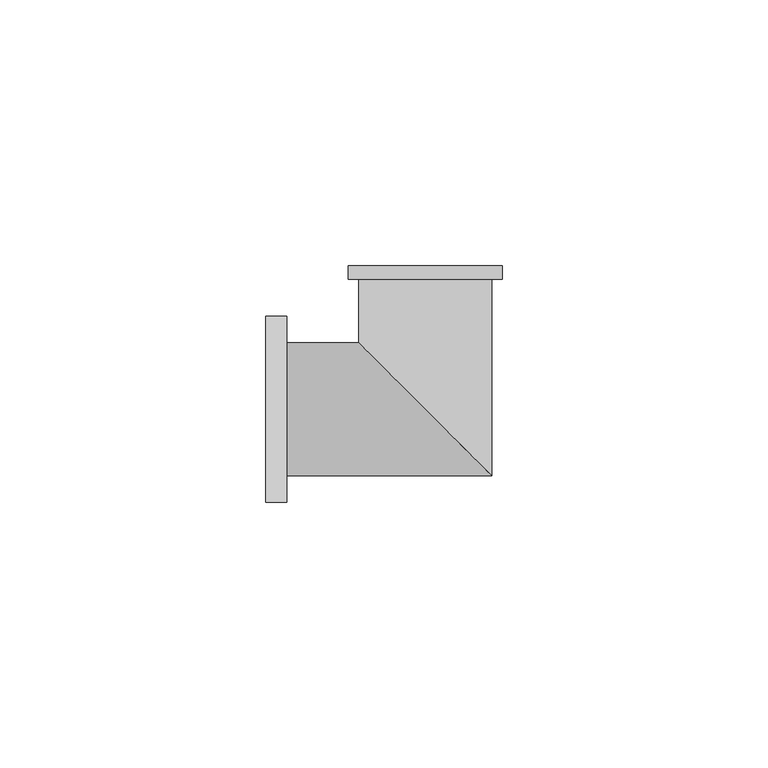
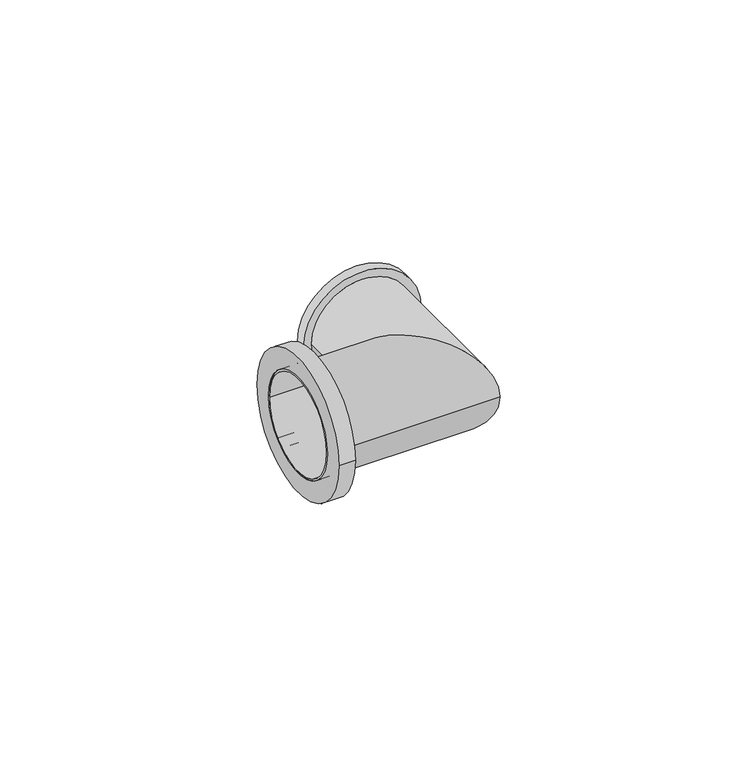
"""IFC4 building model written with IfcOpenShell, lengths in millimetres: pipe fitting geometry, БИР ПЕКС_НПР_Угольник_Резьба_Наружная : Угольник с наружной резьбой."""

import ifcopenshell
import ifcopenshell.guid

model = None  # the IFC model being written
_history = None  # IfcOwnerHistory: only IFC2X3 demands one
_inside = {}  # id of a spatial element -> (the spatial element, [elements in it])
_under = {}  # id of a project, library or spatial element -> (it, [spatial elements below it])
_declared = {}  # id of a project -> (the project, [libraries it declares])
_typed = {}  # id of a type object -> (the type object, [elements of that type])
_made_of = {}  # id of a material, layer set ... -> (it, [elements and type objects made of it])


def new_model(schema):
    """Start an empty IFC model of exactly this schema.

    Asked for "IFC4X3", IfcOpenShell would pick the latest addendum, in which some entities
    have other attributes; the version numbers below select the first issue.
    IFC2X3 requires an IfcOwnerHistory on every rooted entity: one is made here for all.
    """
    global model, _history
    if schema == "IFC4X3":
        model = ifcopenshell.file(schema_version=(4, 3, 0, 0))
    else:
        model = ifcopenshell.file(schema=schema)
    _inside.clear()
    _under.clear()
    _declared.clear()
    _typed.clear()
    _made_of.clear()
    _history = None
    if model.schema == "IFC2X3":
        org = make("IfcOrganization", Name="unknown")
        user = make(
            "IfcPersonAndOrganization",
            ThePerson=make("IfcPerson", FamilyName="unknown"),
            TheOrganization=org,
        )
        app = make(
            "IfcApplication",
            ApplicationDeveloper=org,
            Version="unknown",
            ApplicationFullName="unknown",
            ApplicationIdentifier="unknown",
        )
        _history = make(
            "IfcOwnerHistory",
            OwningUser=user,
            OwningApplication=app,
            ChangeAction="ADDED",
            CreationDate=0,
        )
    return model


def make(cls, **values):
    """One entity of the class cls with the attributes given. An attribute that is None is left unset."""
    return model.create_entity(
        cls, **{name: value for name, value in values.items() if value is not None}
    )


def rooted(cls, **values):
    """An entity with a GlobalId (a new one), such as an element, a storey or a relation."""
    return make(cls, GlobalId=ifcopenshell.guid.new(), OwnerHistory=_history, **values)


def si_unit(unit_type, name, prefix=None):
    """IfcSIUnit, for example si_unit("LENGTHUNIT", "METRE", prefix="MILLI")."""
    return make("IfcSIUnit", UnitType=unit_type, Prefix=prefix, Name=name)


def assignment(units):
    """IfcUnitAssignment: the units of a project."""
    return None if units is None else make("IfcUnitAssignment", Units=units)


def point(xyz):
    """IfcCartesianPoint."""
    return None if xyz is None else make("IfcCartesianPoint", Coordinates=xyz)


def direction(xyz):
    """IfcDirection."""
    return None if xyz is None else make("IfcDirection", DirectionRatios=xyz)


def frame(location, z_axis=None, x_axis=None):
    """IfcAxis2Placement3D, a coordinate frame: its origin and axes. An axis left out is left unset."""
    return make(
        "IfcAxis2Placement3D",
        Location=point(location),
        Axis=direction(z_axis),
        RefDirection=direction(x_axis),
    )


def frame_2d(location, x_axis=None):
    """IfcAxis2Placement2D, a coordinate frame in the plane: its origin and x axis."""
    return make(
        "IfcAxis2Placement2D", Location=point(location), RefDirection=direction(x_axis)
    )


def origin():
    """The frame at (0, 0, 0) with its axes left unset."""
    return frame((0.0, 0.0, 0.0))


def origin_2d():
    """The frame at (0, 0) in the plane with its x axis left unset."""
    return frame_2d((0.0, 0.0))


def place(relative_to, where):
    """IfcLocalPlacement: puts the frame where relative to a parent placement (None: the world)."""
    return make(
        "IfcLocalPlacement", PlacementRelTo=relative_to, RelativePlacement=where
    )


def context(
    kind, dimensions, precision=None, world=None, true_north=None, identifier=None
):
    """IfcGeometricRepresentationContext, for example the 3D "Model" context."""
    return make(
        "IfcGeometricRepresentationContext",
        ContextIdentifier=identifier,
        ContextType=kind,
        CoordinateSpaceDimension=dimensions,
        Precision=precision,
        WorldCoordinateSystem=world,
        TrueNorth=true_north,
    )


def project(units=None, contexts=None):
    """IfcProject with its units and contexts."""
    return rooted(
        "IfcProject",
        Name="project",
        RepresentationContexts=contexts,
        UnitsInContext=assignment(units),
    )


def spatial(cls, under=None, at=None, **own):
    """A site, building, storey or space (cls), placed at a placement, below another one or the project."""
    s = rooted(cls, ObjectPlacement=at, **own)
    if under is not None:
        _under.setdefault(under.id(), (under, []))[1].append(s)
    return s


def polyline(points):
    """IfcPolyline through the points."""
    return make("IfcPolyline", Points=[point(p) for p in points])


def circle_curve(where, radius):
    """IfcCircle in the frame where."""
    return make("IfcCircle", Position=where, Radius=radius)


def ellipse_curve(where, semi_axis1, semi_axis2):
    """IfcEllipse in the frame where."""
    return make(
        "IfcEllipse", Position=where, SemiAxis1=semi_axis1, SemiAxis2=semi_axis2
    )


def trimmed(basis, trim1, trim2, sense, master):
    """IfcTrimmedCurve: the piece of a basis curve between two trims."""
    return make(
        "IfcTrimmedCurve",
        BasisCurve=basis,
        Trim1=trim1,
        Trim2=trim2,
        SenseAgreement=sense,
        MasterRepresentation=master,
    )


def segment(curve, same_sense, transition):
    """IfcCompositeCurveSegment."""
    return make(
        "IfcCompositeCurveSegment",
        Transition=transition,
        SameSense=same_sense,
        ParentCurve=curve,
    )


def composite_curve(segments, self_intersect=None):
    """IfcCompositeCurve: segments joined end to end."""
    return make("IfcCompositeCurve", Segments=segments, SelfIntersect=self_intersect)


def outline(outer, holes=None, kind="AREA"):
    """IfcArbitraryClosedProfileDef: a profile drawn as a closed curve; with holes, ...WithVoids."""
    if holes is None:
        return make("IfcArbitraryClosedProfileDef", ProfileType=kind, OuterCurve=outer)
    return make(
        "IfcArbitraryProfileDefWithVoids",
        ProfileType=kind,
        OuterCurve=outer,
        InnerCurves=holes,
    )


def extrude(swept, where, along, depth):
    """IfcExtrudedAreaSolid: the profile swept, set in the frame where, extruded along a direction by depth."""
    return make(
        "IfcExtrudedAreaSolid",
        SweptArea=swept,
        Position=where,
        ExtrudedDirection=direction(along),
        Depth=depth,
    )


def shape(context_of_items, identifier, shape_type, items):
    """IfcShapeRepresentation: the items that make up one representation, for example the "Body"."""
    return make(
        "IfcShapeRepresentation",
        ContextOfItems=context_of_items,
        RepresentationIdentifier=identifier,
        RepresentationType=shape_type,
        Items=items,
    )


def source(mapping_origin, context_of_items, identifier, shape_type, items):
    """IfcRepresentationMap: a shape defined once, which mapped items show again and again."""
    return make(
        "IfcRepresentationMap",
        MappingOrigin=mapping_origin,
        MappedRepresentation=shape(context_of_items, identifier, shape_type, items),
    )


def transform(
    local_origin,
    x_axis=None,
    y_axis=None,
    z_axis=None,
    scale=None,
    scale2=None,
    scale3=None,
    uniform=True,
):
    """IfcCartesianTransformationOperator3D, or its non-uniform kind. x_axis, y_axis, z_axis: its Axis1, 2, 3."""
    if uniform:
        return make(
            "IfcCartesianTransformationOperator3D",
            Axis1=direction(x_axis),
            Axis2=direction(y_axis),
            LocalOrigin=point(local_origin),
            Scale=scale,
            Axis3=direction(z_axis),
        )
    return make(
        "IfcCartesianTransformationOperator3DnonUniform",
        Axis1=direction(x_axis),
        Axis2=direction(y_axis),
        LocalOrigin=point(local_origin),
        Scale=scale,
        Axis3=direction(z_axis),
        Scale2=scale2,
        Scale3=scale3,
    )


def mapped(mapping_source, mapping_target):
    """IfcMappedItem: shows the shape of a source again, moved by a transform."""
    return make(
        "IfcMappedItem", MappingSource=mapping_source, MappingTarget=mapping_target
    )


def made_of(thing, what):
    """Note that an element or type object is made of a material, layer set ...; save() writes the relation."""
    if what is not None:
        _made_of.setdefault(what.id(), (what, []))[1].append(thing)
    return thing


def element(
    cls,
    number,
    at=None,
    inside=None,
    cuts=None,
    type_object=None,
    material=None,
    context=None,
    identifier="Body",
    shape_type=None,
    held_by="IfcProductDefinitionShape",
    body=None,
    shapes=None,
    **own,
):
    """One element of the class cls, such as IfcWall. Its Tag is "e" and its number.

    at: its placement. inside: the storey or other place that contains it. cuts: it is an
    opening in that element (IfcRelVoidsElement). A single representation is given by context,
    identifier, shape_type and body (its items); several are given by shapes. held_by: the class
    of the entity that holds the representations. save() writes the other relations.
    """
    e = rooted(cls, Tag="e%d" % number, ObjectPlacement=at, **own)
    if body is not None:
        shapes = [shape(context, identifier, shape_type, body)]
    if shapes is not None:
        e.Representation = make(held_by, Representations=shapes)
    if inside is not None:
        _inside.setdefault(inside.id(), (inside, []))[1].append(e)
    if cuts is not None:
        rooted(
            "IfcRelVoidsElement", RelatingBuildingElement=cuts, RelatedOpeningElement=e
        )
    if type_object is not None:
        _typed.setdefault(type_object.id(), (type_object, []))[1].append(e)
    return made_of(e, material)


def aggregate(whole, parts):
    """IfcRelAggregates: a whole, such as a stair, and the parts it consists of."""
    return rooted("IfcRelAggregates", RelatingObject=whole, RelatedObjects=parts)


def save(model, path):
    """Write the relations noted so far, then the file.

    IfcRelAggregates (storeys below a building ...), IfcRelContainedInSpatialStructure (elements
    in a storey), IfcRelDefinesByType, IfcRelAssociatesMaterial and IfcRelDeclares: one each for
    every whole, place, type object, material and project.
    """
    for whole, parts in _under.values():
        aggregate(whole, parts)
    for where, things in _inside.values():
        rooted(
            "IfcRelContainedInSpatialStructure",
            RelatedElements=things,
            RelatingStructure=where,
        )
    for kind, things in _typed.values():
        rooted("IfcRelDefinesByType", RelatedObjects=things, RelatingType=kind)
    for what, things in _made_of.values():
        rooted("IfcRelAssociatesMaterial", RelatedObjects=things, RelatingMaterial=what)
    for by, libraries in _declared.values():
        rooted("IfcRelDeclares", RelatingContext=by, RelatedDefinitions=libraries)
    model.write(path)


def plane_surface(at):
    """IfcPlane: the flat surface through the origin of the frame at, square to its z axis."""
    return make("IfcPlane", Position=at)


def cylinder_surface(at, radius):
    """IfcCylindricalSurface: all points at the distance radius from the z axis of the frame at."""
    return make("IfcCylindricalSurface", Position=at, Radius=radius)


def revolved_surface(curve, axis_point, axis_direction):
    """IfcSurfaceOfRevolution: the curve turned about the line through axis_point along axis_direction."""
    return make(
        "IfcSurfaceOfRevolution",
        SweptCurve=make("IfcArbitraryOpenProfileDef", ProfileType="CURVE", Curve=curve),
        AxisPosition=make("IfcAxis1Placement", Location=point(axis_point), Axis=direction(axis_direction)),
    )


def advanced_brep(points, edges, surfaces, faces):
    """IfcAdvancedBrep: a solid bounded by faces that lie on surfaces and meet in shared edges.

    An edge is (start, end): straight between two places in points (the first is 0);
    or (start, end, curve); or (start, end, curve, False) where it runs against its curve.
    A face is (place in surfaces, loops), or (place, loops, False) where it looks against
    its surface's normal. A loop lists edges by number (the first is 1), with a minus sign
    where the edge is run from its end to its start. The first loop is the outer one.
    """
    corners = [point(p) for p in points]
    vertices = [make("IfcVertexPoint", VertexGeometry=c) for c in corners]
    made = []
    for start, end, *more in edges:
        made.append(
            make(
                "IfcEdgeCurve",
                EdgeStart=vertices[start],
                EdgeEnd=vertices[end],
                EdgeGeometry=more[0] if more else make("IfcPolyline", Points=[corners[start], corners[end]]),
                SameSense=more[1] if len(more) > 1 else True,
            )
        )
    hull = []
    for where, loops, *sense in faces:
        bounds = []
        for j, loop in enumerate(loops):
            ring = [make("IfcOrientedEdge", EdgeElement=made[abs(k) - 1], Orientation=k > 0) for k in loop]
            bounds.append(
                make(
                    "IfcFaceOuterBound" if j == 0 else "IfcFaceBound",
                    Bound=make("IfcEdgeLoop", EdgeList=ring),
                    Orientation=True,
                )
            )
        hull.append(make("IfcAdvancedFace", Bounds=bounds, FaceSurface=surfaces[where], SameSense=sense[0] if sense else True))
    return make("IfcAdvancedBrep", Outer=make("IfcClosedShell", CfsFaces=hull))


def pipe_fitting_a28e8263(model_context):
    return source(origin(), model_context, "Body", "SolidModel", [
        extrude(outline(composite_curve([segment(trimmed(circle_curve(origin_2d(), 17.5), [point((-17.5, 0.0))], [point((17.5, 0.0))], False, "CARTESIAN"), True, "CONTINUOUS"), segment(trimmed(circle_curve(origin_2d(), 17.5), [point((17.5, 0.0))], [point((-17.5, 0.0))], False, "CARTESIAN"), True, "CONTINUOUS")], self_intersect=False), holes=[composite_curve([segment(trimmed(circle_curve(origin_2d(), 12.5), [point((-12.5, 0.0))], [point((12.5, 0.0))], True, "CARTESIAN"), True, "CONTINUOUS"), segment(trimmed(circle_curve(origin_2d(), 12.5), [point((12.5, 0.0))], [point((-12.5, 0.0))], True, "CARTESIAN"), True, "CONTINUOUS")], self_intersect=False)]), frame((-30.0, 0.0, 0.0), z_axis=(1.0, 0.0, 0.0), x_axis=(0.0, 1.0, 0.0)), (0.0, 0.0, 1.0), 4.0),
        advanced_brep(
        [(-30.0, -12.5, 0.0), (-30.0, 12.5, 0.0), (-30.0, -12.0, 0.0), (-30.0, 12.0, 0.0), (12.5, -12.5, 0.0), (-12.5, 12.5, 0.0), (-14.5, 27.0, 0.0), (14.5, 27.0, 0.0), (12.0, 27.0, 0.0), (-12.0, 27.0, 0.0), (12.5, 24.5, 0.0), (-12.5, 24.5, 0.0), (-14.5, 24.5, 0.0), (14.5, 24.5, 0.0), (12.0, -12.0, 0.0), (-12.0, 12.0, 0.0)],
        [
            (0, 1, circle_curve(frame((-30.0, 0.0, 0.0), z_axis=(-1.0, 0.0, 0.0), x_axis=(0.0, 1.0, 0.0)), 12.5)),
            (1, 0, circle_curve(frame((-30.0, 0.0, 0.0), z_axis=(-1.0, 0.0, 0.0), x_axis=(0.0, 1.0, 0.0)), 12.5)),
            (2, 3, circle_curve(frame((-30.0, 0.0, 0.0), z_axis=(1.0, 0.0, 0.0), x_axis=(0.0, 1.0, 0.0)), 12.0)),
            (3, 2, circle_curve(frame((-30.0, 0.0, 0.0), z_axis=(1.0, 0.0, 0.0), x_axis=(0.0, 1.0, 0.0)), 12.0)),
            (0, 4),
            (4, 5, ellipse_curve(frame((0.0, 0.0, 0.0), z_axis=(-0.7071067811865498, -0.7071067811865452, 0.0), x_axis=(-0.7071067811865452, 0.7071067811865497, 0.0)), 17.6776695, 12.5)),
            (5, 1),
            (5, 4, ellipse_curve(frame((0.0, 0.0, 0.0), z_axis=(-0.7071067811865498, -0.7071067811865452, 0.0), x_axis=(-0.7071067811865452, 0.7071067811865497, 0.0)), 17.6776695, 12.5)),
            (6, 7, circle_curve(frame((0.0, 27.0, 0.0), z_axis=(0.0, 1.0, 0.0), x_axis=(1.0, 0.0, 0.0)), 14.5)),
            (7, 6, circle_curve(frame((0.0, 27.0, 0.0), z_axis=(0.0, 1.0, 0.0), x_axis=(1.0, 0.0, 0.0)), 14.5)),
            (8, 9, circle_curve(frame((0.0, 27.0, 0.0), z_axis=(0.0, -1.0, 0.0), x_axis=(-1.0, 0.0, 0.0)), 12.0)),
            (9, 8, circle_curve(frame((0.0, 27.0, 0.0), z_axis=(0.0, -1.0, 0.0), x_axis=(-1.0, 0.0, 0.0)), 12.0)),
            (4, 10),
            (10, 11, circle_curve(frame((0.0, 24.5, 0.0), z_axis=(0.0, -1.0, 0.0), x_axis=(-1.0, 0.0, 0.0)), 12.5)),
            (11, 5),
            (11, 10, circle_curve(frame((0.0, 24.5, 0.0), z_axis=(0.0, -1.0, 0.0), x_axis=(-1.0, 0.0, 0.0)), 12.5)),
            (12, 13, circle_curve(frame((0.0, 24.5, 0.0), z_axis=(0.0, -1.0, 0.0), x_axis=(1.0, 0.0, 0.0)), 14.5)),
            (13, 12, circle_curve(frame((0.0, 24.5, 0.0), z_axis=(0.0, -1.0, 0.0), x_axis=(1.0, 0.0, 0.0)), 14.5)),
            (12, 6),
            (7, 13),
            (2, 14),
            (14, 15, ellipse_curve(frame((0.0, 0.0, 0.0), z_axis=(0.7071067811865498, 0.7071067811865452, 0.0), x_axis=(0.7071067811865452, -0.7071067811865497, 0.0)), 16.9705627, 12.0)),
            (15, 3),
            (15, 14, ellipse_curve(frame((0.0, 0.0, 0.0), z_axis=(0.7071067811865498, 0.7071067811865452, 0.0), x_axis=(0.7071067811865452, -0.7071067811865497, 0.0)), 16.9705627, 12.0)),
            (9, 15),
            (14, 8),
        ],
        [
            plane_surface(frame((-30.0, 0.0, 0.0), z_axis=(-1.0, 0.0, 0.0), x_axis=(0.0, 0.0, 1.0))),
            cylinder_surface(frame((-30.0, 0.0, 0.0), z_axis=(-1.0, 0.0, 0.0), x_axis=(0.0, 1.0, 0.0)), 12.5),
            plane_surface(frame((0.0, 27.0, 0.0), z_axis=(0.0, 1.0, 0.0), x_axis=(0.0, 0.0, 1.0))),
            cylinder_surface(frame((0.0, 0.0, 0.0), z_axis=(0.0, -1.0, 0.0), x_axis=(-1.0, 0.0, 0.0)), 12.5),
            plane_surface(frame((14.5, 24.5, 0.0), z_axis=(0.0, -1.0, 0.0), x_axis=(0.0, 0.0, 1.0))),
            cylinder_surface(frame((0.0, 27.0, 0.0), z_axis=(0.0, -1.0, 0.0), x_axis=(1.0, 0.0, 0.0)), 14.5),
            revolved_surface(polyline([(12.0, 12.0, 0.0), (-30.0, 12.0, 0.0)]), (-30.0, 0.0, 0.0), (1.0, 0.0, 0.0)),
            revolved_surface(polyline([(-12.0, 27.0, 0.0), (-12.0, -12.0, 0.0)]), (0.0, 0.0, 0.0), (0.0, 1.0, 0.0)),
        ],
        [
            (0, [[1, 2], [3, 4]]),
            (1, [[-1, 5, 6, 7]]),
            (1, [[-2, -7, 8, -5]]),
            (2, [[9, 10], [11, 12]]),
            (3, [[-6, 13, 14, 15]]),
            (3, [[-8, -15, 16, -13]]),
            (4, [[17, 18], [-14, -16]]),
            (5, [[-17, 19, -10, 20]]),
            (5, [[-18, -20, -9, -19]]),
            (6, [[-3, 21, 22, 23]]),
            (6, [[-4, -23, 24, -21]]),
            (7, [[-12, 25, -22, 26]]),
            (7, [[-11, -26, -24, -25]]),
        ],
    ),
    ])


if __name__ == "__main__":
    model = new_model("IFC4")
    model_context = context("Model", 3, world=origin())
    ifc_project = project(units=[si_unit("LENGTHUNIT", "METRE", prefix="MILLI")], contexts=[model_context])
    site = spatial("IfcSite", under=ifc_project)
    building = spatial("IfcBuilding", under=site)
    placement = place(None, origin())
    pipe_fitting_shape = pipe_fitting_a28e8263(model_context)
    element("IfcPipeFitting", 1, ObjectType="БИР ПЕКС_НПР_Угольник_Резьба_Наружная : Угольник с наружной резьбой", at=placement, inside=building, context=model_context, shape_type="MappedRepresentation", body=[
        mapped(pipe_fitting_shape, transform((0.0, 0.0, 0.0), x_axis=(1.0, 0.0, 0.0), y_axis=(0.0, 1.0, 0.0), z_axis=(0.0, 0.0, 1.0))),
    ])
    save(model, "model.ifc")
